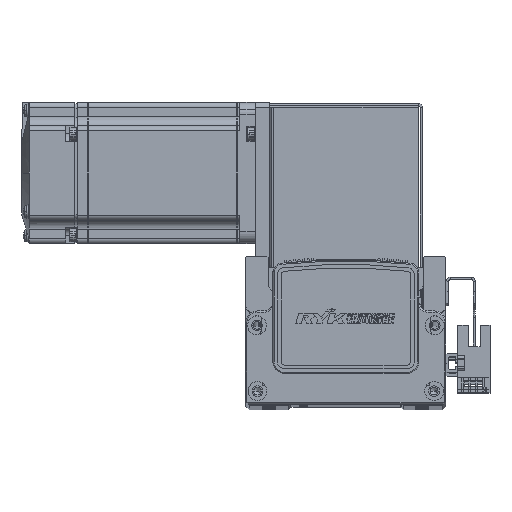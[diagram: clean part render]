
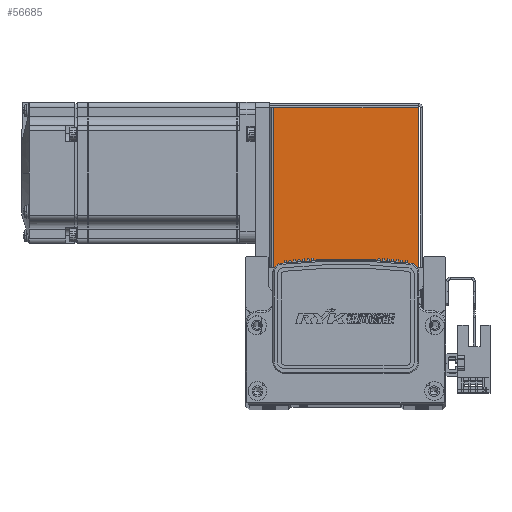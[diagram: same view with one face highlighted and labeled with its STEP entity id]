
A CAD part, top view. The second image highlights one B-rep face of the part: STEP entity #56685.
In plain terms, the highlighted planar face has unit normal (0, 0, 1).
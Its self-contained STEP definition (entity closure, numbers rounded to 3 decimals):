
#6962 = EDGE_LOOP ( 'NONE', ( #66204, #66191, #66159, #66163 ) ) ;
#16106 = CARTESIAN_POINT ( 'NONE',  ( -30.793, 0., 35. ) ) ;
#16138 = DIRECTION ( 'NONE',  ( -1., 0., 0. ) ) ;
#16160 = CARTESIAN_POINT ( 'NONE',  ( 0., 68.5, 35. ) ) ;
#16238 = DIRECTION ( 'NONE',  ( 0., 1., 0. ) ) ;
#16248 = CARTESIAN_POINT ( 'NONE',  ( -32.5, 0.737, 35. ) ) ;
#16258 = DIRECTION ( 'NONE',  ( -1., 0., 0. ) ) ;
#16397 = CARTESIAN_POINT ( 'NONE',  ( 30.763, 0.737, 35. ) ) ;
#16440 = DIRECTION ( 'NONE',  ( 0., 1., 0. ) ) ;
#18888 = VECTOR ( 'NONE', #16238, 1000. ) ;
#18916 = LINE ( 'NONE', #16106, #18888 ) ;
#18944 = VECTOR ( 'NONE', #16258, 1000. ) ;
#18989 = VECTOR ( 'NONE', #16138, 1000. ) ;
#18992 = LINE ( 'NONE', #16248, #18944 ) ;
#19018 = LINE ( 'NONE', #16160, #18989 ) ;
#19130 = VECTOR ( 'NONE', #16440, 1000. ) ;
#19175 = LINE ( 'NONE', #16397, #19130 ) ;
#25473 = CARTESIAN_POINT ( 'NONE',  ( 0., 0., 35. ) ) ;
#25497 = DIRECTION ( 'NONE',  ( 0., 0., -1. ) ) ;
#25506 = DIRECTION ( 'NONE',  ( -1., 0., 0. ) ) ;
#25522 = PLANE ( 'NONE',  #55131 ) ;
#34089 = FACE_OUTER_BOUND ( 'NONE', #6962, .T. ) ;
#34526 = CARTESIAN_POINT ( 'NONE',  ( -30.793, 0.737, 35. ) ) ;
#34531 = CARTESIAN_POINT ( 'NONE',  ( 30.763, 0.737, 35. ) ) ;
#34585 = CARTESIAN_POINT ( 'NONE',  ( 30.763, 68.5, 35. ) ) ;
#34635 = CARTESIAN_POINT ( 'NONE',  ( -30.793, 68.5, 35. ) ) ;
#54617 = VERTEX_POINT ( 'NONE', #34531 ) ;
#54680 = VERTEX_POINT ( 'NONE', #34526 ) ;
#54738 = VERTEX_POINT ( 'NONE', #34635 ) ;
#54781 = VERTEX_POINT ( 'NONE', #34585 ) ;
#55131 = AXIS2_PLACEMENT_3D ( 'NONE', #25473, #25497, #25506 ) ;
#56685 = ADVANCED_FACE ( 'NONE', ( #34089 ), #25522, .F. ) ;
#66159 = ORIENTED_EDGE ( 'NONE', *, *, #74471, .F. ) ;
#66163 = ORIENTED_EDGE ( 'NONE', *, *, #74528, .F. ) ;
#66191 = ORIENTED_EDGE ( 'NONE', *, *, #74514, .T. ) ;
#66204 = ORIENTED_EDGE ( 'NONE', *, *, #74624, .T. ) ;
#74471 = EDGE_CURVE ( 'NONE', #54680, #54738, #18916, .T. ) ;
#74514 = EDGE_CURVE ( 'NONE', #54781, #54738, #19018, .T. ) ;
#74528 = EDGE_CURVE ( 'NONE', #54617, #54680, #18992, .T. ) ;
#74624 = EDGE_CURVE ( 'NONE', #54617, #54781, #19175, .T. ) ;
